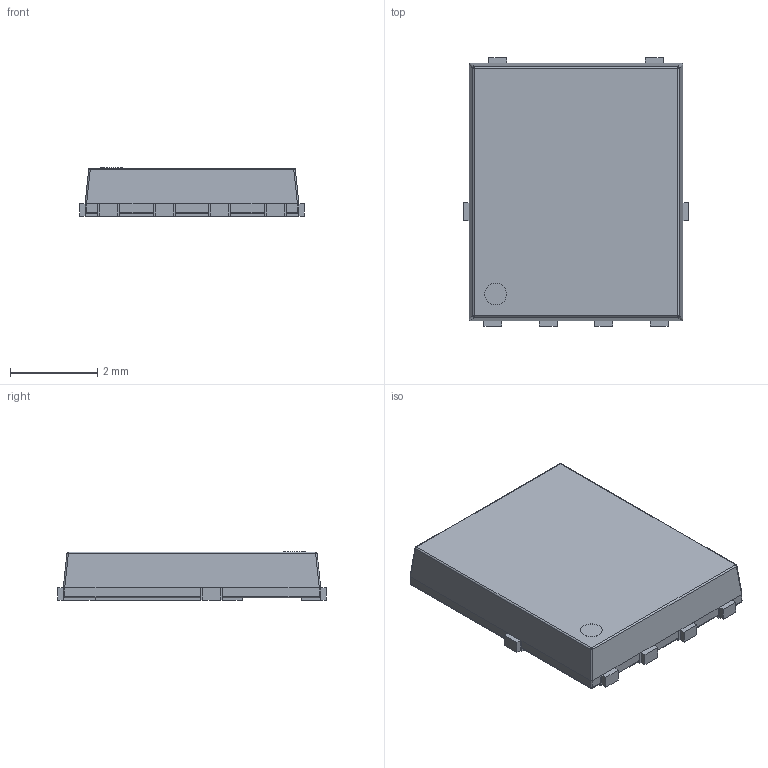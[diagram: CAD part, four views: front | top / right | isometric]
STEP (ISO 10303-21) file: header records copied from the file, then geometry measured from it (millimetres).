
FILE_DESCRIPTION (( 'STEP AP214' ), '1' );
FILE_NAME ('NVMFS6H836NLT1G.STEP', '2025-08-06T07:38:07', ( '' ), ( '' ), 'SwSTEP 2.0', 'SolidWorks 2023', '' );
FILE_SCHEMA (( 'AUTOMOTIVE_DESIGN' ));
Length unit declared in the file: millimetre
Products named in the file (4): pads; NVMFS6H836NLT1G; body; dot
Assembly tree (3 placements, depth 2):
  NVMFS6H836NLT1G
    pads
    body
    dot
Bounding box: 5.15 x 6.15 x 1.1 mm (x, y, z)
Volume: 30.5 mm3; surface area: 124.3 mm2
Topology: 7 solids, 7 shells, 176 faces, 462 edges, 284 vertices
Faces by surface type: plane 134, cylinder 26, bspline 16
Entity records: 7475 total; most frequent: CARTESIAN_POINT 1164, ORIENTED_EDGE 892, DIRECTION 850, EDGE_CURVE 446, LINE 366, VECTOR 366, VERTEX_POINT 284, AXIS2_PLACEMENT_3D 242
